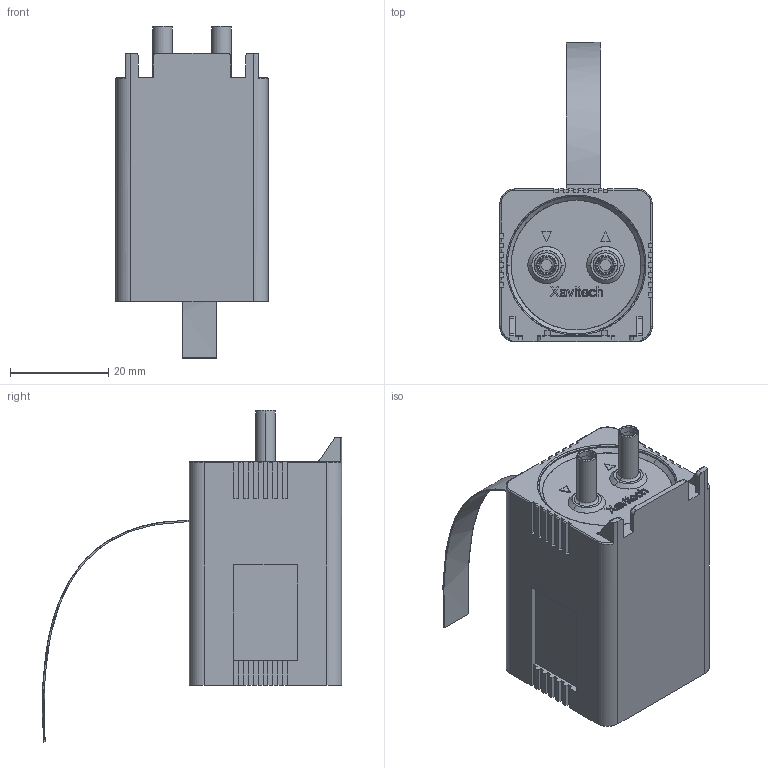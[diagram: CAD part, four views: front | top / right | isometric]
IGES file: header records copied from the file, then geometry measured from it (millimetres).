
Start section: SolidWorks IGES file using analytic representation for surfaces
Global section: file name: \\XSERVER\Xavitech Data\Produktion\Standardprodukter\Mekanik\Assembly\X1500\Pump dummies for web\X1500-Black-edition-flex 150423.IGS; native system: SolidWorks 2014; preprocessor: SolidWorks 2014; author: JGP01; date: 150423.143805; units: millimetre
Bounding box: 31 x 60.95 x 67.61 mm (x, y, z)
Surface area: 9618.7 mm2 (no closed solid volume)
Topology: 0 solids, 0 shells, 413 faces, 3416 edges, 3416 vertices
Faces by surface type: bspline 347, revolution 66
